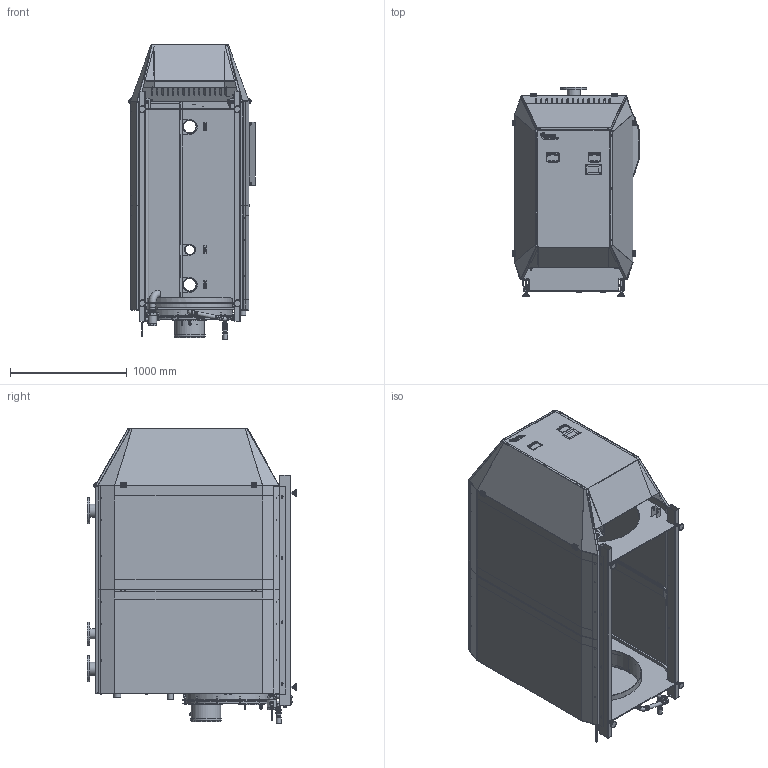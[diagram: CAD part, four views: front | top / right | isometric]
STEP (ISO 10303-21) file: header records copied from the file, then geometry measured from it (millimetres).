
FILE_DESCRIPTION (( 'STEP AP203' ), '1' );
FILE_NAME ('PMX 480-E.STEP', '2019-03-08T08:25:45', ( '' ), ( '' ), 'SwSTEP 2.0', 'SolidWorks 2019', '' );
FILE_SCHEMA (( 'CONFIG_CONTROL_DESIGN' ));
Length unit declared in the file: millimetre
Products named in the file (1): PMX 480-E
Bounding box: 1089.43 x 1792 x 2530.98 mm (x, y, z)
Surface area: 33872612.8 mm2 (no closed solid volume)
Topology: 0 solids, 517 shells, 1804 faces, 9673 edges, 8184 vertices
Faces by surface type: plane 1012, cylinder 480, torus 160, cone 76, bspline 44, sphere 32
Full cylindrical faces by diameter (mm): 4 x7, 5 x15, 5.5 x3, 6 x3, 6.9 x2, 7 x5, 8 x16, 10 x2, 10.2 x6, 12 x11, 13 x3, 14 x17, 15 x1, 17 x2, 17.2 x1, 18 x21, 18.8 x1, 21 x1, 22 x1, 25 x2, 26.4 x1, 30 x1, 32 x1, 32.5 x4, 34 x5, 36 x8, 36.5 x3, 38 x1, 40 x8, 44 x1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
Entity records: 106491 total; most frequent: CARTESIAN_POINT 36322, DIRECTION 13547, ORIENTED_EDGE 10944, EDGE_CURVE 9162, VERTEX_POINT 8062, LINE 5465, VECTOR 5465, AXIS2_PLACEMENT_3D 4041
